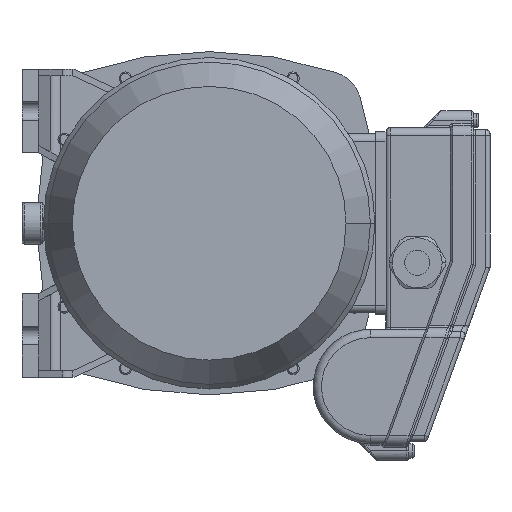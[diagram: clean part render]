
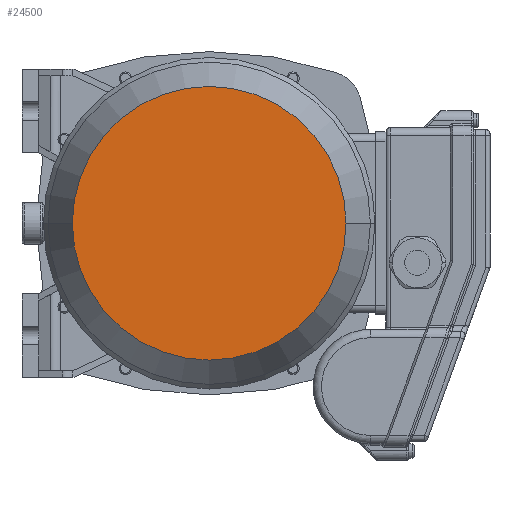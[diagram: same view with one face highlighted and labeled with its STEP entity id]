
A CAD part, front view. The second image highlights one B-rep face of the part: STEP entity #24500.
In plain terms, the highlighted planar face has unit normal (0, -1, 0) as drawn and (1, 0, 0) by its records, which use the part's own axes.
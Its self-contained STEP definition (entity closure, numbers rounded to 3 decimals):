
#18593=CARTESIAN_POINT('',(203.,0.,0.));
#18594=DIRECTION('',(-1.,0.,0.));
#18595=DIRECTION('',(0.,1.,0.));
#18596=AXIS2_PLACEMENT_3D('',#18593,#18594,#18595);
#18601=CARTESIAN_POINT('',(203.,0.,0.));
#18602=DIRECTION('',(1.,0.,0.));
#18603=DIRECTION('',(0.,1.,0.));
#18604=AXIS2_PLACEMENT_3D('',#18601,#18602,#18603);
#19909=CARTESIAN_POINT('',(203.,65.794,0.));
#19911=VERTEX_POINT('',#19909);
#19919=CARTESIAN_POINT('',(203.,-65.794,0.));
#19921=VERTEX_POINT('',#19919);
#24491=CARTESIAN_POINT('',(203.,0.,0.));
#24492=DIRECTION('',(1.,0.,0.));
#24493=DIRECTION('',(0.,-1.,0.));
#24494=AXIS2_PLACEMENT_3D('',#24491,#24492,#24493);
#24495=PLANE('',#24494);
#24496=ORIENTED_EDGE('',*,*,#24473,.T.);
#24497=ORIENTED_EDGE('',*,*,#24484,.F.);
#24498=EDGE_LOOP('',(#24496,#24497));
#24499=FACE_OUTER_BOUND('',#24498,.F.);
#18597=CIRCLE('',#18596,65.794);
#18605=CIRCLE('',#18604,65.794);
#24473=EDGE_CURVE('',#19911,#19921,#18597,.T.);
#24484=EDGE_CURVE('',#19911,#19921,#18605,.T.);
#24500=ADVANCED_FACE('',(#24499),#24495,.T.);
